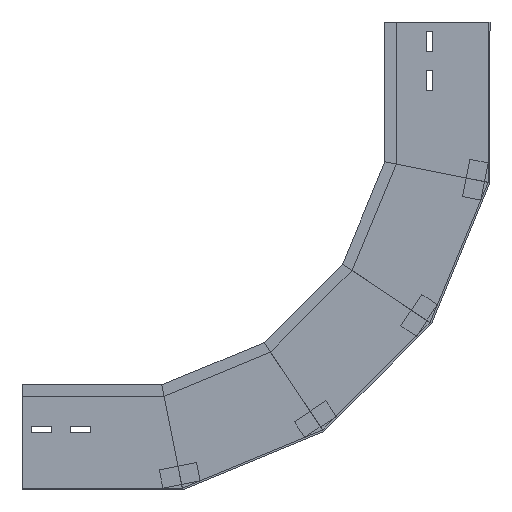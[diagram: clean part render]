
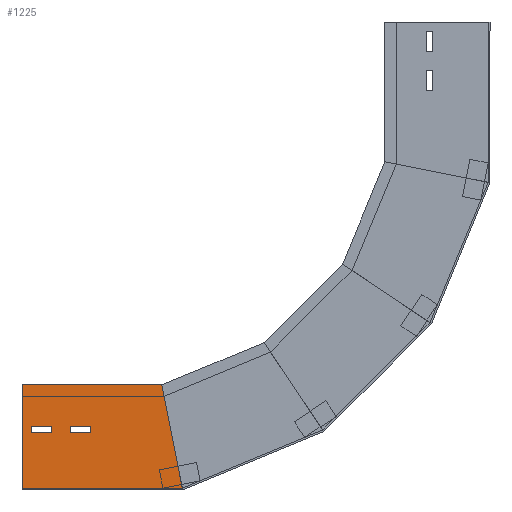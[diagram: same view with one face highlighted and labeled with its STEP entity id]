
A CAD part, left-side view. The second image highlights one B-rep face of the part: STEP entity #1225.
In plain terms, the highlighted planar face has unit normal (-1, 0, 0) as drawn and (1, 0, 0) by its records, which use the part's own axes.
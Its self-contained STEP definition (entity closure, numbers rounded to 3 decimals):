
#26 = VECTOR ( 'NONE', #220, 1000. ) ;
#36 = CARTESIAN_POINT ( 'NONE',  ( 0., 61.5, -51.505 ) ) ;
#54 = VECTOR ( 'NONE', #954, 1000. ) ;
#64 = EDGE_CURVE ( 'NONE', #1491, #1622, #1545, .T. ) ;
#79 = EDGE_CURVE ( 'NONE', #1758, #1491, #1222, .T. ) ;
#80 = CARTESIAN_POINT ( 'NONE',  ( 0., 68.5, -31.835 ) ) ;
#88 = DIRECTION ( 'NONE',  ( 0., 1., 0. ) ) ;
#108 = CARTESIAN_POINT ( 'NONE',  ( 0., 0., -172.1 ) ) ;
#134 = CARTESIAN_POINT ( 'NONE',  ( 0., 68.5, -51.505 ) ) ;
#159 = LINE ( 'NONE', #1051, #835 ) ;
#172 = DIRECTION ( 'NONE',  ( 0., 0., 1. ) ) ;
#177 = EDGE_CURVE ( 'NONE', #1650, #1758, #239, .T. ) ;
#184 = VERTEX_POINT ( 'NONE', #1287 ) ;
#216 = DIRECTION ( 'NONE',  ( 0., 0., 1. ) ) ;
#219 = ORIENTED_EDGE ( 'NONE', *, *, #1401, .T. ) ;
#220 = DIRECTION ( 'NONE',  ( 0., 0., -1. ) ) ;
#230 = ORIENTED_EDGE ( 'NONE', *, *, #1314, .T. ) ;
#239 = LINE ( 'NONE', #971, #768 ) ;
#250 = FACE_BOUND ( 'NONE', #453, .T. ) ;
#296 = CARTESIAN_POINT ( 'NONE',  ( 0., 61.5, -31.835 ) ) ;
#315 = CARTESIAN_POINT ( 'NONE',  ( 0., 112.5, -149.722 ) ) ;
#333 = VECTOR ( 'NONE', #456, 1000. ) ;
#366 = VECTOR ( 'NONE', #1748, 1000. ) ;
#387 = DIRECTION ( 'NONE',  ( 0., -0.981, -0.195 ) ) ;
#402 = FACE_OUTER_BOUND ( 'NONE', #1788, .T. ) ;
#411 = FACE_BOUND ( 'NONE', #1745, .T. ) ;
#416 = ORIENTED_EDGE ( 'NONE', *, *, #1368, .F. ) ;
#443 = EDGE_CURVE ( 'NONE', #556, #1476, #1003, .T. ) ;
#453 = EDGE_LOOP ( 'NONE', ( #230, #1187, #219, #1836 ) ) ;
#456 = DIRECTION ( 'NONE',  ( 0., 0., -1. ) ) ;
#474 = ORIENTED_EDGE ( 'NONE', *, *, #1486, .F. ) ;
#492 = VECTOR ( 'NONE', #1184, 1000. ) ;
#496 = DIRECTION ( 'NONE',  ( 0., -1., 0. ) ) ;
#524 = VECTOR ( 'NONE', #172, 1000. ) ;
#551 = VECTOR ( 'NONE', #88, 1000. ) ;
#556 = VERTEX_POINT ( 'NONE', #1478 ) ;
#590 = ORIENTED_EDGE ( 'NONE', *, *, #1607, .F. ) ;
#600 = VERTEX_POINT ( 'NONE', #315 ) ;
#619 = LINE ( 'NONE', #1185, #366 ) ;
#631 = CARTESIAN_POINT ( 'NONE',  ( 0., 61.5, -9.835 ) ) ;
#675 = DIRECTION ( 'NONE',  ( 0., 0., 1. ) ) ;
#718 = LINE ( 'NONE', #134, #1053 ) ;
#753 = CARTESIAN_POINT ( 'NONE',  ( 0., 68.5, -51.505 ) ) ;
#768 = VECTOR ( 'NONE', #1413, 1000. ) ;
#809 = VERTEX_POINT ( 'NONE', #108 ) ;
#829 = CARTESIAN_POINT ( 'NONE',  ( 0., 68.5, -9.835 ) ) ;
#830 = CARTESIAN_POINT ( 'NONE',  ( 0., 68.5, -9.835 ) ) ;
#835 = VECTOR ( 'NONE', #496, 1000. ) ;
#887 = DIRECTION ( 'NONE',  ( 0., 1., 0. ) ) ;
#945 = EDGE_CURVE ( 'NONE', #1764, #184, #619, .T. ) ;
#951 = ORIENTED_EDGE ( 'NONE', *, *, #1152, .T. ) ;
#954 = DIRECTION ( 'NONE',  ( 0., 0., -1. ) ) ;
#971 = CARTESIAN_POINT ( 'NONE',  ( 0., 68.5, -31.835 ) ) ;
#1000 = DIRECTION ( 'NONE',  ( -1., 0., 0. ) ) ;
#1003 = LINE ( 'NONE', #1302, #1869 ) ;
#1025 = CARTESIAN_POINT ( 'NONE',  ( 0., 0., 0. ) ) ;
#1030 = ORIENTED_EDGE ( 'NONE', *, *, #79, .T. ) ;
#1034 = ORIENTED_EDGE ( 'NONE', *, *, #1348, .T. ) ;
#1051 = CARTESIAN_POINT ( 'NONE',  ( 0., 68.5, -73.505 ) ) ;
#1053 = VECTOR ( 'NONE', #887, 1000. ) ;
#1137 = ORIENTED_EDGE ( 'NONE', *, *, #177, .T. ) ;
#1151 = CARTESIAN_POINT ( 'NONE',  ( 0., 0., 0. ) ) ;
#1152 = EDGE_CURVE ( 'NONE', #1622, #1650, #1516, .T. ) ;
#1184 = DIRECTION ( 'NONE',  ( 0., 1., 0. ) ) ;
#1185 = CARTESIAN_POINT ( 'NONE',  ( 0., 68.5, -51.505 ) ) ;
#1187 = ORIENTED_EDGE ( 'NONE', *, *, #945, .T. ) ;
#1222 = LINE ( 'NONE', #1492, #524 ) ;
#1225 = ADVANCED_FACE ( 'NONE', ( #250, #402, #411 ), #1827, .F. ) ;
#1242 = LINE ( 'NONE', #1849, #1297 ) ;
#1287 = CARTESIAN_POINT ( 'NONE',  ( 0., 68.5, -73.505 ) ) ;
#1297 = VECTOR ( 'NONE', #387, 1000. ) ;
#1300 = CARTESIAN_POINT ( 'NONE',  ( 0., 0., 0. ) ) ;
#1302 = CARTESIAN_POINT ( 'NONE',  ( 0., 61.5, -51.505 ) ) ;
#1314 = EDGE_CURVE ( 'NONE', #1476, #1764, #718, .T. ) ;
#1321 = CARTESIAN_POINT ( 'NONE',  ( 0., 112.5, 0. ) ) ;
#1348 = EDGE_CURVE ( 'NONE', #1831, #809, #1581, .T. ) ;
#1368 = EDGE_CURVE ( 'NONE', #1831, #1785, #1729, .T. ) ;
#1401 = EDGE_CURVE ( 'NONE', #184, #556, #159, .T. ) ;
#1410 = CARTESIAN_POINT ( 'NONE',  ( 0., 0., 0. ) ) ;
#1413 = DIRECTION ( 'NONE',  ( 0., -1., 0. ) ) ;
#1476 = VERTEX_POINT ( 'NONE', #36 ) ;
#1478 = CARTESIAN_POINT ( 'NONE',  ( 0., 61.5, -73.505 ) ) ;
#1486 = EDGE_CURVE ( 'NONE', #1785, #600, #1800, .T. ) ;
#1491 = VERTEX_POINT ( 'NONE', #631 ) ;
#1492 = CARTESIAN_POINT ( 'NONE',  ( 0., 61.5, -9.835 ) ) ;
#1516 = LINE ( 'NONE', #1528, #26 ) ;
#1528 = CARTESIAN_POINT ( 'NONE',  ( 0., 68.5, -9.835 ) ) ;
#1545 = LINE ( 'NONE', #829, #551 ) ;
#1581 = LINE ( 'NONE', #1151, #333 ) ;
#1607 = EDGE_CURVE ( 'NONE', #600, #809, #1242, .T. ) ;
#1622 = VERTEX_POINT ( 'NONE', #830 ) ;
#1650 = VERTEX_POINT ( 'NONE', #80 ) ;
#1684 = AXIS2_PLACEMENT_3D ( 'NONE', #1410, #1000, #675 ) ;
#1729 = LINE ( 'NONE', #1300, #492 ) ;
#1745 = EDGE_LOOP ( 'NONE', ( #1774, #951, #1137, #1030 ) ) ;
#1748 = DIRECTION ( 'NONE',  ( 0., 0., -1. ) ) ;
#1758 = VERTEX_POINT ( 'NONE', #296 ) ;
#1764 = VERTEX_POINT ( 'NONE', #753 ) ;
#1774 = ORIENTED_EDGE ( 'NONE', *, *, #64, .T. ) ;
#1779 = CARTESIAN_POINT ( 'NONE',  ( 0., 112.5, 0. ) ) ;
#1785 = VERTEX_POINT ( 'NONE', #1321 ) ;
#1788 = EDGE_LOOP ( 'NONE', ( #474, #416, #1034, #590 ) ) ;
#1800 = LINE ( 'NONE', #1779, #54 ) ;
#1827 = PLANE ( 'NONE',  #1684 ) ;
#1831 = VERTEX_POINT ( 'NONE', #1025 ) ;
#1836 = ORIENTED_EDGE ( 'NONE', *, *, #443, .T. ) ;
#1849 = CARTESIAN_POINT ( 'NONE',  ( 0., 32.93, -165.55 ) ) ;
#1869 = VECTOR ( 'NONE', #216, 1000. ) ;
